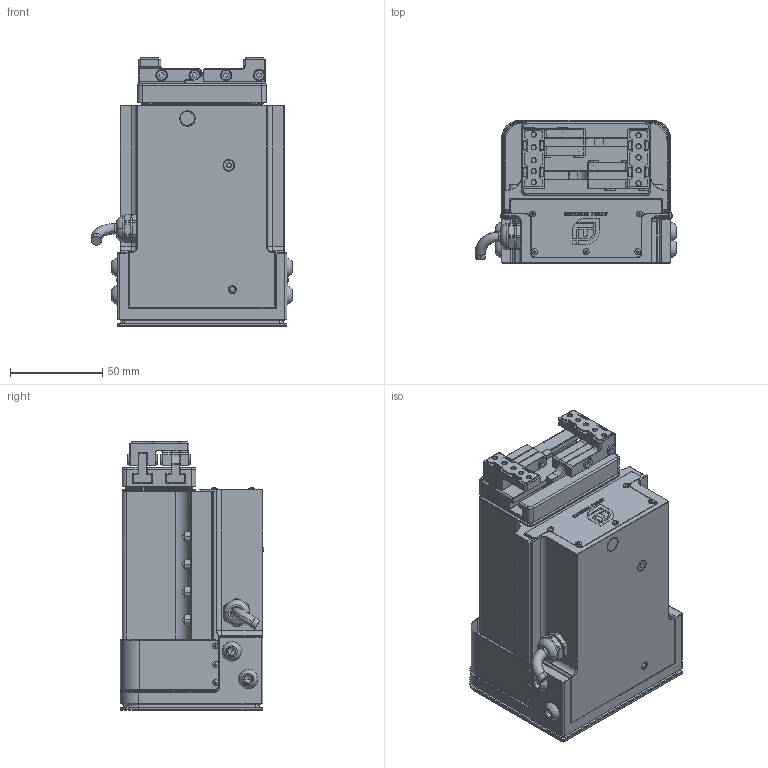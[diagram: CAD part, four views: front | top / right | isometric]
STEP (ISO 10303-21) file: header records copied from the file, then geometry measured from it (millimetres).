
FILE_DESCRIPTION (( 'STEP AP203' ), '1' );
FILE_NAME ('RG-RM.STEP', '2023-02-21T09:06:12', ( '' ), ( '' ), 'SwSTEP 2.0', 'SolidWorks 2020', '' );
FILE_SCHEMA (( 'CONFIG_CONTROL_DESIGN' ));
Length unit declared in the file: millimetre
Products named in the file (6): 4; 2; 3; 5; 1; RG-RM
Assembly tree (9 placements, depth 2):
  RG-RM
    1
    2
    4
    5  x4
    3  x2
Bounding box: 109.6 x 78.11 x 146 mm (x, y, z)
Volume: 432736.8 mm3; surface area: 163872.9 mm2
Topology: 38 solids, 71 shells, 3766 faces, 8900 edges, 5423 vertices
Faces by surface type: plane 1648, cone 885, cylinder 852, bspline 286, torus 88, sphere 7
Entity records: 98562 total; most frequent: CARTESIAN_POINT 23521, DIRECTION 15456, ORIENTED_EDGE 15242, EDGE_CURVE 7629, AXIS2_PLACEMENT_3D 5541, VERTEX_POINT 4708, LINE 4374, VECTOR 4374
